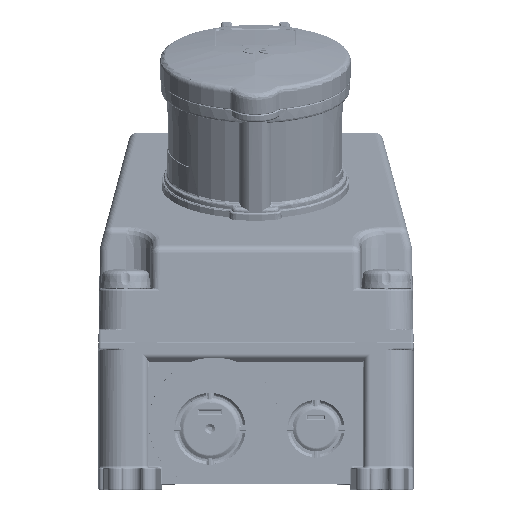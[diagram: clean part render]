
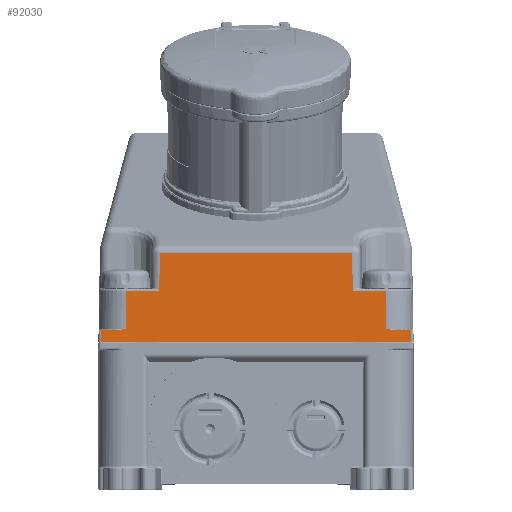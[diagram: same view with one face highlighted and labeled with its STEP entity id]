
A CAD part, front view. The second image highlights one B-rep face of the part: STEP entity #92030.
In plain terms, the highlighted planar face has unit normal (0, -1, 0.018).
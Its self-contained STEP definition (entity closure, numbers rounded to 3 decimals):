
#769=DIRECTION('',(-1.,0.,0.));
#770=VECTOR('',#769,5.367);
#771=CARTESIAN_POINT('',(6.406,0.039,57.255));
#772=LINE('31367',#771,#770);
#776=CARTESIAN_POINT('',(9.798,0.05,57.845));
#777=CARTESIAN_POINT('',(9.575,0.049,57.788));
#778=CARTESIAN_POINT('',(9.148,0.047,57.681));
#779=CARTESIAN_POINT('',(8.565,0.044,57.544));
#780=CARTESIAN_POINT('',(8.035,0.042,57.434));
#781=CARTESIAN_POINT('',(7.556,0.041,57.35));
#782=CARTESIAN_POINT('',(7.126,0.04,57.294));
#783=CARTESIAN_POINT('',(6.742,0.039,57.262));
#784=CARTESIAN_POINT('',(6.514,0.039,57.255));
#785=CARTESIAN_POINT('',(6.406,0.039,57.255));
#798=DIRECTION('',(0.017,0.017,1.));
#799=VECTOR('',#798,13.668);
#800=CARTESIAN_POINT('',(9.798,0.05,57.845));
#801=LINE('31370',#800,#799);
#805=DIRECTION('',(0.009,0.017,1.));
#806=VECTOR('',#805,13.432);
#807=CARTESIAN_POINT('',(21.845,0.288,71.509));
#808=LINE('31372',#807,#806);
#812=DIRECTION('',(0.009,-0.017,-1.));
#813=VECTOR('',#812,13.432);
#814=CARTESIAN_POINT('',(91.037,0.523,84.938));
#815=LINE('31374',#814,#813);
#819=DIRECTION('',(0.017,-0.017,-1.));
#820=VECTOR('',#819,13.668);
#821=CARTESIAN_POINT('',(102.963,0.288,71.509));
#822=LINE('31376',#821,#820);
#826=DIRECTION('',(0.017,-0.017,-1.));
#827=VECTOR('',#826,4.003);
#828=CARTESIAN_POINT('',(111.961,0.039,57.255));
#829=LINE('31379',#828,#827);
#833=DIRECTION('',(0.017,0.017,1.));
#834=VECTOR('',#833,4.003);
#835=CARTESIAN_POINT('',(0.969,-0.03,
53.253));
#836=LINE('31381',#835,#834);
#840=CARTESIAN_POINT('',(9.798,0.05,57.845));
#1118=DIRECTION('',(1.,0.,0.));
#1119=VECTOR('',#1118,111.061);
#1120=CARTESIAN_POINT('',(0.969,-0.03,
53.253));
#1121=LINE('31380',#1120,#1119);
#53118=DIRECTION('',(-1.,0.,0.));
#53119=VECTOR('',#53118,5.367);
#53120=CARTESIAN_POINT('',(111.961,0.039,
57.255));
#53121=LINE('31378',#53120,#53119);
#53133=CARTESIAN_POINT('',(106.594,0.039,
57.255));
#53134=CARTESIAN_POINT('',(106.486,0.039,
57.255));
#53135=CARTESIAN_POINT('',(106.258,0.039,
57.262));
#53136=CARTESIAN_POINT('',(105.873,0.04,
57.294));
#53137=CARTESIAN_POINT('',(105.444,0.041,
57.35));
#53138=CARTESIAN_POINT('',(104.965,0.042,
57.434));
#53139=CARTESIAN_POINT('',(104.435,0.044,
57.544));
#53140=CARTESIAN_POINT('',(103.852,0.047,
57.681));
#53141=CARTESIAN_POINT('',(103.425,0.049,
57.788));
#53142=CARTESIAN_POINT('',(103.202,0.05,
57.845));
#53517=DIRECTION('',(-1.,0.,0.));
#53518=VECTOR('',#53517,11.809);
#53519=CARTESIAN_POINT('',(102.963,0.288,
71.509));
#53520=LINE('31375',#53519,#53518);
#53583=DIRECTION('',(-1.,0.,0.));
#53584=VECTOR('',#53583,69.075);
#53585=CARTESIAN_POINT('',(91.037,0.523,
84.938));
#53586=LINE('31373',#53585,#53584);
#54111=DIRECTION('',(-1.,0.,0.));
#54112=VECTOR('',#54111,11.809);
#54113=CARTESIAN_POINT('',(21.845,0.288,
71.509));
#54114=LINE('31371',#54113,#54112);
#81600=VERTEX_POINT('',#840);
#81606=CARTESIAN_POINT('',(6.406,0.039,
57.255));
#81607=VERTEX_POINT('',#81606);
#81608=CARTESIAN_POINT('',(1.039,0.039,
57.255));
#81609=VERTEX_POINT('',#81608);
#81610=CARTESIAN_POINT('',(10.037,0.288,
71.509));
#81611=VERTEX_POINT('',#81610);
#81612=CARTESIAN_POINT('',(21.845,0.288,
71.509));
#81613=VERTEX_POINT('',#81612);
#81614=CARTESIAN_POINT('',(21.963,0.523,
84.938));
#81615=VERTEX_POINT('',#81614);
#81616=CARTESIAN_POINT('',(91.037,0.523,
84.938));
#81617=VERTEX_POINT('',#81616);
#81618=CARTESIAN_POINT('',(91.155,0.288,
71.509));
#81619=VERTEX_POINT('',#81618);
#81620=CARTESIAN_POINT('',(102.963,0.288,
71.509));
#81621=VERTEX_POINT('',#81620);
#81622=CARTESIAN_POINT('',(103.202,0.05,
57.845));
#81623=VERTEX_POINT('',#81622);
#81624=VERTEX_POINT('',#53133);
#81625=CARTESIAN_POINT('',(111.961,0.039,
57.255));
#81626=VERTEX_POINT('',#81625);
#81627=CARTESIAN_POINT('',(112.031,-0.03,
53.253));
#81628=VERTEX_POINT('',#81627);
#81629=CARTESIAN_POINT('',(0.969,-0.03,
53.253));
#81630=VERTEX_POINT('',#81629);
#91997=CARTESIAN_POINT('',(-1.2,0.,55.));
#91998=DIRECTION('',(0.,-1.,0.017));
#91999=DIRECTION('',(-1.,0.,0.));
#92000=AXIS2_PLACEMENT_3D('',#91997,#91998,#91999);
#92001=PLANE('40410',#92000);
#92002=ORIENTED_EDGE('31369',*,*,#91991,.F.);
#92004=ORIENTED_EDGE('31370',*,*,#92003,.T.);
#92006=ORIENTED_EDGE('31371',*,*,#92005,.F.);
#92008=ORIENTED_EDGE('31372',*,*,#92007,.T.);
#92010=ORIENTED_EDGE('31373',*,*,#92009,.F.);
#92012=ORIENTED_EDGE('31374',*,*,#92011,.T.);
#92014=ORIENTED_EDGE('31375',*,*,#92013,.F.);
#92016=ORIENTED_EDGE('31376',*,*,#92015,.T.);
#92018=ORIENTED_EDGE('31377',*,*,#92017,.F.);
#92020=ORIENTED_EDGE('31378',*,*,#92019,.F.);
#92022=ORIENTED_EDGE('31379',*,*,#92021,.T.);
#92024=ORIENTED_EDGE('31380',*,*,#92023,.F.);
#92026=ORIENTED_EDGE('31381',*,*,#92025,.T.);
#92027=ORIENTED_EDGE('31367',*,*,#91942,.F.);
#92028=EDGE_LOOP('40410',(#92002,#92004,#92006,#92008,#92010,#92012,#92014,
#92016,#92018,#92020,#92022,#92024,#92026,#92027));
#92029=FACE_OUTER_BOUND('40410',#92028,.F.);
#786=B_SPLINE_CURVE_WITH_KNOTS('31369',3,(#776,#777,#778,#779,#780,#781,#782,
#783,#784,#785),.UNSPECIFIED.,.F.,.F.,(4,1,1,1,1,1,1,4),(0.,0.143,
0.286,0.429,0.571,0.714,
0.857,1.),.UNSPECIFIED.);
#53143=B_SPLINE_CURVE_WITH_KNOTS('31377',3,(#53133,#53134,#53135,#53136,#53137,
#53138,#53139,#53140,#53141,#53142),.UNSPECIFIED.,.F.,.F.,(4,1,1,1,1,1,1,4),(
0.,0.143,0.286,0.429,0.571,
0.714,0.857,1.),.UNSPECIFIED.);
#91942=EDGE_CURVE('31367',#81607,#81609,#772,.T.);
#91991=EDGE_CURVE('31369',#81600,#81607,#786,.T.);
#92003=EDGE_CURVE('31370',#81600,#81611,#801,.T.);
#92005=EDGE_CURVE('31371',#81613,#81611,#54114,.T.);
#92007=EDGE_CURVE('31372',#81613,#81615,#808,.T.);
#92009=EDGE_CURVE('31373',#81617,#81615,#53586,.T.);
#92011=EDGE_CURVE('31374',#81617,#81619,#815,.T.);
#92013=EDGE_CURVE('31375',#81621,#81619,#53520,.T.);
#92015=EDGE_CURVE('31376',#81621,#81623,#822,.T.);
#92017=EDGE_CURVE('31377',#81624,#81623,#53143,.T.);
#92019=EDGE_CURVE('31378',#81626,#81624,#53121,.T.);
#92021=EDGE_CURVE('31379',#81626,#81628,#829,.T.);
#92023=EDGE_CURVE('31380',#81630,#81628,#1121,.T.);
#92025=EDGE_CURVE('31381',#81630,#81609,#836,.T.);
#92030=ADVANCED_FACE('40410',(#92029),#92001,.T.);
